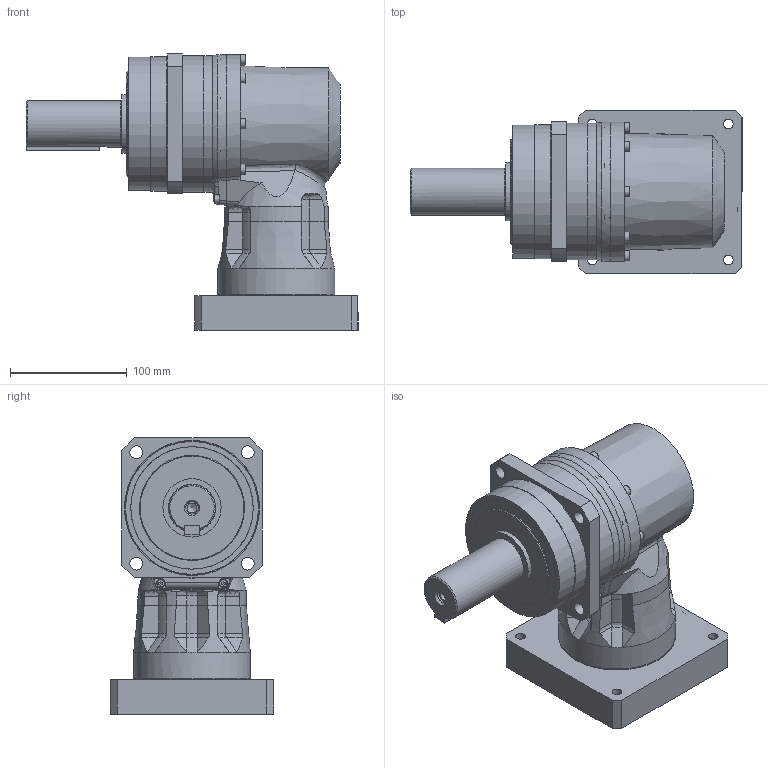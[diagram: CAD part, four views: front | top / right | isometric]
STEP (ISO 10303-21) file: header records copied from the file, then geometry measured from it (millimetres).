
FILE_DESCRIPTION(/* description */ ('ANFX-PK130W-3-Z70G'),/* implementation_level */ '2;1');
FILE_NAME(/* name */ 'C:\Users\ADMINI~1\AppData\Local\Temp\MM582174_ANFX-PK130W-3-Z70G.stp',/* time_stamp */ '2018-07-12T16:08:55+02:00',/* author */ ('Berger'),/* organization */ (''),/* preprocessor_version */ 'ST-DEVELOPER v17',/* originating_system */ 'Autodesk Inventor 2018',/* authorisation */ '');
FILE_SCHEMA (('AUTOMOTIVE_DESIGN { 1 0 10303 214 3 1 1 }'));
Length unit declared in the file: millimetre
Products named in the file (25): MM581710; MMBG0004105; MMCM057LG; MMAF787LG; 5006008RS---G; MMAP6504G; 213742; M530A406212--G; 211458; M214303; 200458; MMBG0004078; MMCL445LG; MMCM226LG; MAX4841G; MAW8388G; M233C1208063NG; MMBG0004117; MMAF790LG; MMAP3262G; M009M004R022NG; 213890; 133599; MAW8794G; 204174
Assembly tree (53 placements, depth 3):
  MM581710
    MMBG0004105
      MMCM057LG
      MMAF787LG
      5006008RS---G
      MMAP6504G
      213742
      M530A406212--G
      211458  x2
      M214303  x8
      200458  x7
    MMBG0004078
      MMCL445LG
      MMCM226LG
      MAX4841G
      MAW8388G
      M233C1208063NG
    MMBG0004117
      MMAF790LG
      MMAP3262G
      M009M004R022NG  x8
      213890  x2
    133599
    MAW8794G
    204174  x8
Bounding box: 284.5 x 140 x 236.7 mm (x, y, z)
Volume: 1911156.1 mm3; surface area: 475182.3 mm2
Topology: 109 solids, 110 shells, 1200 faces, 3308 edges, 2318 vertices
Faces by surface type: plane 566, cylinder 313, cone 132, torus 70, bspline 61, sphere 58
Full cylindrical faces by diameter (mm): 3.242 x12, 4 x11, 4.134 x15, 4.5 x18, 4.917 x9, 5 x15, 5.5 x15, 6 x9, 6.6 x9, 7 x10, 8 x8, 8.376 x5, 8.5 x15, 8.566 x2, 10 x9, 10.5 x1, 11 x12, 15 x3, 15.2 x1, 15.6 x1, 18 x1, 20 x1, 24.5 x1, 28 x1, 37 x1, 38 x1, 39.4 x1, 39.6 x1, 40 x3, 42 x1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
Entity records: 28400 total; most frequent: CARTESIAN_POINT 6501, DIRECTION 4657, ORIENTED_EDGE 4112, EDGE_CURVE 2056, AXIS2_PLACEMENT_3D 1970, VERTEX_POINT 1543, CIRCLE 1118, EDGE_LOOP 1047
